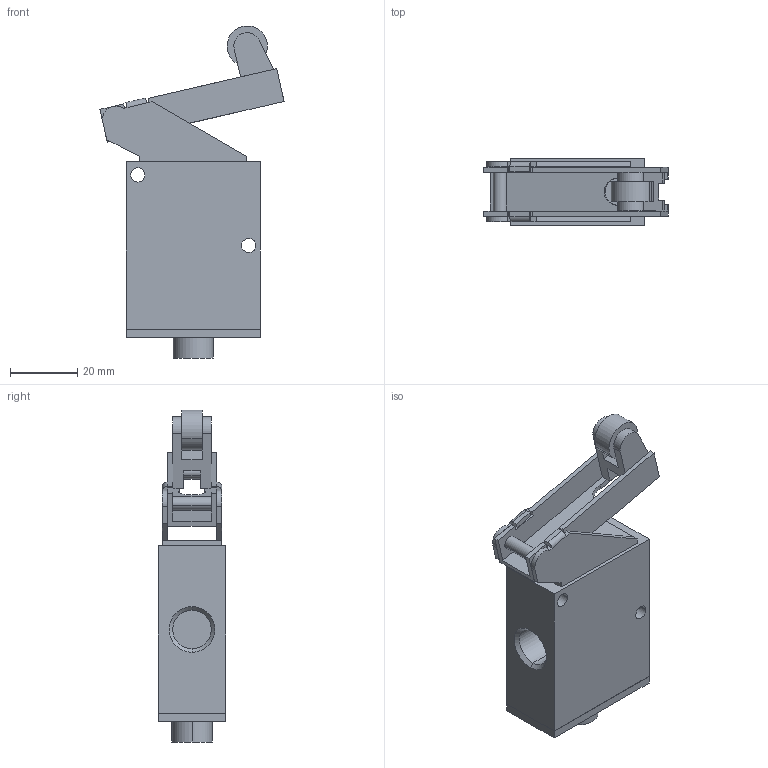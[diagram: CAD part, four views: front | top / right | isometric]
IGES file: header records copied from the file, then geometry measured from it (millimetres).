
Global section: file name: No Iges File Name specified; native system: AutoDesk Inventor R11.0; preprocessor: AutoDesk Inventor Iges Exporter R11.0; author: No Author specified; organization: No Organization specified; date: 20061219.113316; units: millimetre
Bounding box: 54.87 x 20 x 98.84 mm (x, y, z)
Volume: 45286 mm3; surface area: 17477 mm2
Topology: 3 solids, 3 shells, 129 faces, 322 edges, 204 vertices
Faces by surface type: plane 81, bspline 27, cylinder 16, revolution 5
